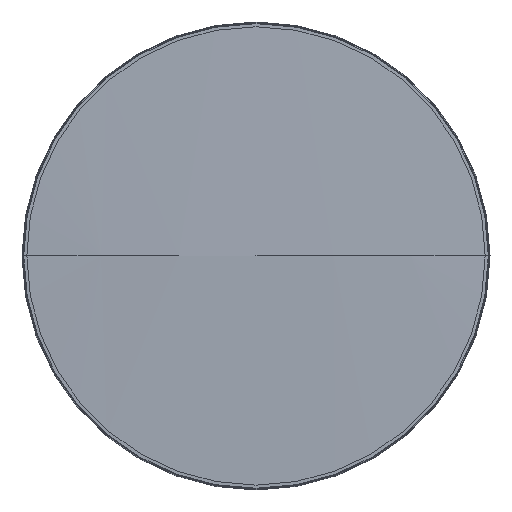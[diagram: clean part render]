
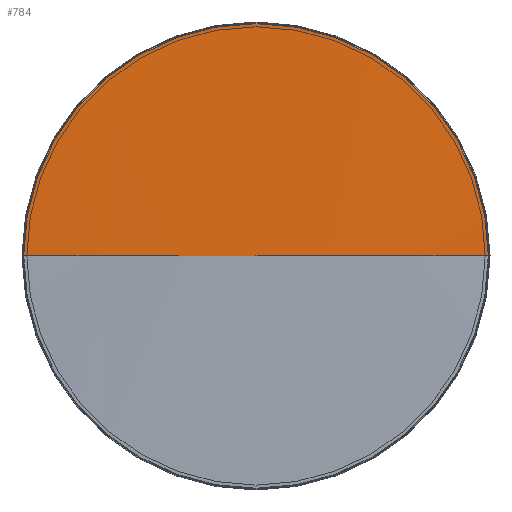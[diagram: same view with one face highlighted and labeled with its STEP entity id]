
A CAD part, top view. The second image highlights one B-rep face of the part: STEP entity #784.
In plain terms, the highlighted spherical face has radius 2487.93 mm.
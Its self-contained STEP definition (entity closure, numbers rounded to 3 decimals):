
#604=CARTESIAN_POINT('',(0.,0.,-104.981));
#605=DIRECTION('',(0.,0.,-1.));
#606=DIRECTION('',(-1.,0.,0.));
#607=AXIS2_PLACEMENT_3D('',#604,#605,#606);
#619=CARTESIAN_POINT('',(0.,0.,-2590.926));
#620=DIRECTION('',(0.,1.,0.));
#621=DIRECTION('',(0.,0.,1.));
#622=AXIS2_PLACEMENT_3D('',#619,#620,#621);
#624=CARTESIAN_POINT('',(0.,0.,-2590.926));
#625=DIRECTION('',(0.,-1.,0.));
#626=DIRECTION('',(0.,0.,1.));
#627=AXIS2_PLACEMENT_3D('',#624,#625,#626);
#705=CARTESIAN_POINT('',(0.,0.,-103.));
#706=CARTESIAN_POINT('',(-99.266,0.,
-104.981));
#707=VERTEX_POINT('',#705);
#708=VERTEX_POINT('',#706);
#709=CARTESIAN_POINT('',(99.266,0.,
-104.981));
#710=VERTEX_POINT('',#709);
#774=CARTESIAN_POINT('',(0.,0.,-2590.926));
#775=DIRECTION('',(0.,0.,-1.));
#776=DIRECTION('',(1.,0.,0.));
#777=AXIS2_PLACEMENT_3D('',#774,#775,#776);
#778=SPHERICAL_SURFACE('',#777,2487.926);
#779=ORIENTED_EDGE('',*,*,#765,.T.);
#780=ORIENTED_EDGE('',*,*,#740,.F.);
#781=ORIENTED_EDGE('',*,*,#738,.T.);
#782=EDGE_LOOP('',(#779,#780,#781));
#783=FACE_OUTER_BOUND('',#782,.F.);
#784=ADVANCED_FACE('',(#783),#778,.T.);
#608=CIRCLE('',#607,99.266);
#623=CIRCLE('',#622,2487.926);
#628=CIRCLE('',#627,2487.926);
#738=EDGE_CURVE('',#707,#708,#628,.T.);
#740=EDGE_CURVE('',#707,#710,#623,.T.);
#765=EDGE_CURVE('',#708,#710,#608,.T.);
